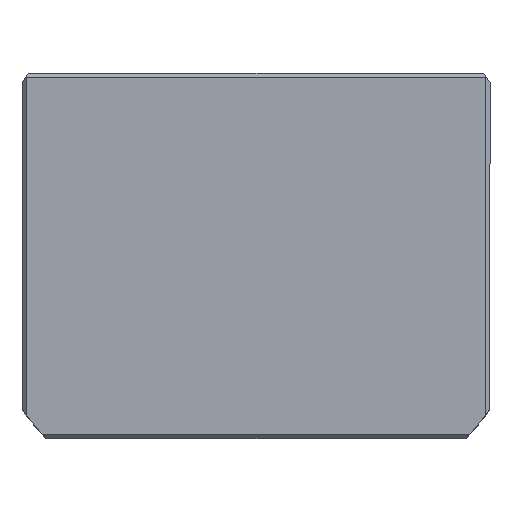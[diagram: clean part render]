
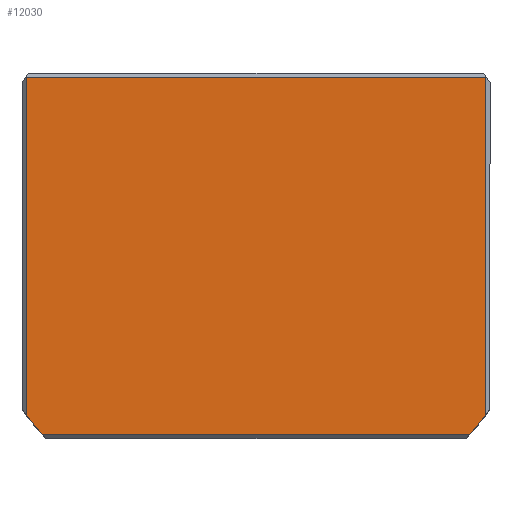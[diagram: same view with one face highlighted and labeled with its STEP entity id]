
A CAD part, top view. The second image highlights one B-rep face of the part: STEP entity #12030.
In plain terms, the highlighted planar face has unit normal (0, 0, 1) as drawn and (0, 0, -1) by its records, which use the part's own axes.
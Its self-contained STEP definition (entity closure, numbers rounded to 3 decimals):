
#43 = DIRECTION ( 'NONE',  ( 0., -1., 0. ) ) ;
#71 = CARTESIAN_POINT ( 'NONE',  ( 56., 0., 0. ) ) ;
#503 = CIRCLE ( 'NONE', #13162, 69.5 ) ;
#832 = CARTESIAN_POINT ( 'NONE',  ( -56., 38.661, 0. ) ) ;
#1582 = VECTOR ( 'NONE', #43, 1000. ) ;
#1834 = EDGE_CURVE ( 'NONE', #18809, #2057, #16113, .T. ) ;
#2057 = VERTEX_POINT ( 'NONE', #17100 ) ;
#2138 = VERTEX_POINT ( 'NONE', #7031 ) ;
#2235 = ORIENTED_EDGE ( 'NONE', *, *, #20711, .T. ) ;
#2239 = ORIENTED_EDGE ( 'NONE', *, *, #8681, .F. ) ;
#4070 = EDGE_CURVE ( 'NONE', #2138, #17680, #23183, .T. ) ;
#4262 = VECTOR ( 'NONE', #8965, 1000. ) ;
#4470 = ORIENTED_EDGE ( 'NONE', *, *, #4070, .T. ) ;
#4817 = LINE ( 'NONE', #21119, #4262 ) ;
#7031 = CARTESIAN_POINT ( 'NONE',  ( -52.098, 43.5, 0. ) ) ;
#7584 = VERTEX_POINT ( 'NONE', #832 ) ;
#7629 = ORIENTED_EDGE ( 'NONE', *, *, #1834, .T. ) ;
#8041 = CARTESIAN_POINT ( 'NONE',  ( 0., -2.5, 0. ) ) ;
#8681 = EDGE_CURVE ( 'NONE', #2138, #7584, #8967, .T. ) ;
#8954 = DIRECTION ( 'NONE',  ( 1., 0., 0. ) ) ;
#8965 = DIRECTION ( 'NONE',  ( 0., 1., 0. ) ) ;
#8967 = CIRCLE ( 'NONE', #14085, 69.5 ) ;
#9085 = CARTESIAN_POINT ( 'NONE',  ( 0., 43.5, 0. ) ) ;
#9144 = DIRECTION ( 'NONE',  ( 1., 0., 0. ) ) ;
#9512 = DIRECTION ( 'NONE',  ( 0., 0., 1. ) ) ;
#9896 = DIRECTION ( 'NONE',  ( 1., 0., 0. ) ) ;
#10889 = PLANE ( 'NONE',  #20142 ) ;
#11479 = FACE_OUTER_BOUND ( 'NONE', #11874, .T. ) ;
#11874 = EDGE_LOOP ( 'NONE', ( #21067, #7629, #2235, #22763, #2239, #4470 ) ) ;
#12021 = VERTEX_POINT ( 'NONE', #18012 ) ;
#12030 = ADVANCED_FACE ( 'NONE', ( #11479 ), #10889, .F. ) ;
#13162 = AXIS2_PLACEMENT_3D ( 'NONE', #8041, #20500, #9896 ) ;
#14085 = AXIS2_PLACEMENT_3D ( 'NONE', #20134, #9512, #21888 ) ;
#15841 = LINE ( 'NONE', #18430, #21034 ) ;
#16113 = LINE ( 'NONE', #71, #1582 ) ;
#16668 = DIRECTION ( 'NONE',  ( -1., 0., 0. ) ) ;
#17100 = CARTESIAN_POINT ( 'NONE',  ( 56., -43.5, 0. ) ) ;
#17680 = VERTEX_POINT ( 'NONE', #17869 ) ;
#17869 = CARTESIAN_POINT ( 'NONE',  ( 52.098, 43.5, 0. ) ) ;
#17942 = CARTESIAN_POINT ( 'NONE',  ( 0., 0., 0. ) ) ;
#18012 = CARTESIAN_POINT ( 'NONE',  ( -56., -43.5, 0. ) ) ;
#18385 = CARTESIAN_POINT ( 'NONE',  ( 56., 38.661, 0. ) ) ;
#18430 = CARTESIAN_POINT ( 'NONE',  ( 0., -43.5, 0. ) ) ;
#18690 = EDGE_CURVE ( 'NONE', #12021, #7584, #4817, .T. ) ;
#18809 = VERTEX_POINT ( 'NONE', #18385 ) ;
#19780 = DIRECTION ( 'NONE',  ( 0., 0., 1. ) ) ;
#20134 = CARTESIAN_POINT ( 'NONE',  ( 0., -2.5, 0. ) ) ;
#20142 = AXIS2_PLACEMENT_3D ( 'NONE', #17942, #19780, #9144 ) ;
#20500 = DIRECTION ( 'NONE',  ( 0., 0., 1. ) ) ;
#20711 = EDGE_CURVE ( 'NONE', #2057, #12021, #15841, .T. ) ;
#21034 = VECTOR ( 'NONE', #16668, 1000. ) ;
#21067 = ORIENTED_EDGE ( 'NONE', *, *, #22847, .F. ) ;
#21119 = CARTESIAN_POINT ( 'NONE',  ( -56., 0., 0. ) ) ;
#21888 = DIRECTION ( 'NONE',  ( 1., 0., 0. ) ) ;
#22638 = VECTOR ( 'NONE', #8954, 1000. ) ;
#22763 = ORIENTED_EDGE ( 'NONE', *, *, #18690, .T. ) ;
#22847 = EDGE_CURVE ( 'NONE', #18809, #17680, #503, .T. ) ;
#23183 = LINE ( 'NONE', #9085, #22638 ) ;
